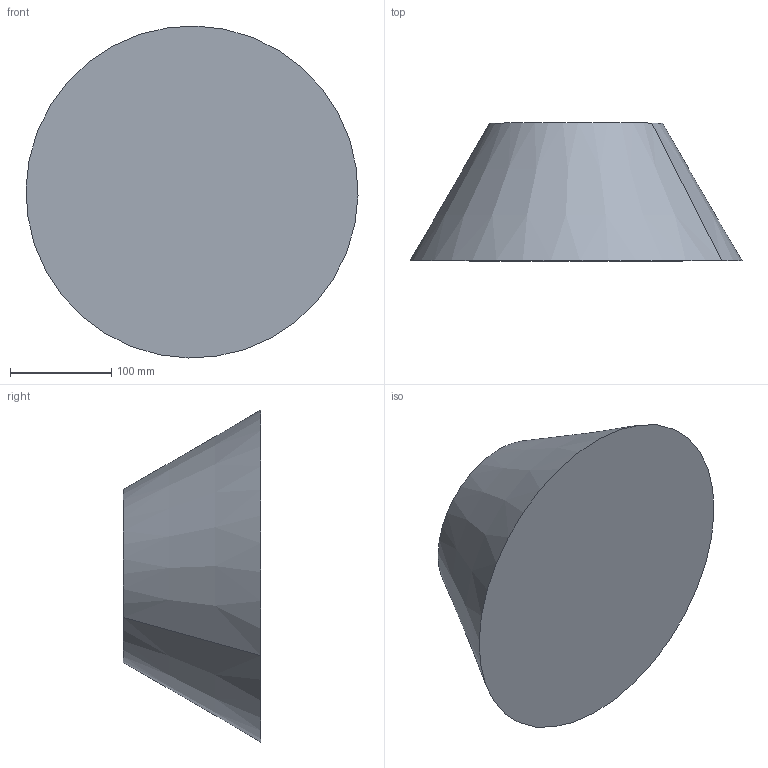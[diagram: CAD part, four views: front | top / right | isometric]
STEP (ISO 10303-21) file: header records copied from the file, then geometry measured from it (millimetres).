
FILE_DESCRIPTION(('CATIA V5 STEP Exchange'),'2;1');
FILE_NAME('C:\_Andres\UNIVERSIDAD\IQS\ASIGNATURAS\DAO\EXF\EXF-16172c\2inicio\Villarroya_Marquina_Ej09_v36.stp','2017-03-05T22:13:16+00:00',('none'),('none'),'CATIA Version 5-6 Release 2014 SP1 HF18','CATIA V5 STEP AP203','none');
FILE_SCHEMA(('CONFIG_CONTROL_DESIGN'));
Length unit declared in the file: millimetre
Products named in the file (1): Villarroya_Marquina_Ej09_v36
Bounding box: 327.91 x 136 x 327.91 mm (x, y, z)
Volume: 6859821.9 mm3; surface area: 232732.7 mm2
Topology: 1 solids, 2 shells, 8 faces, 12 edges, 8 vertices
Faces by surface type: plane 4, cone 2, cylinder 2
Entity records: 205 total; most frequent: CARTESIAN_POINT 27, DIRECTION 24, ORIENTED_EDGE 24, AXIS2_PLACEMENT_3D 15, EDGE_CURVE 12, ADVANCED_FACE 8, CIRCLE 8, EDGE_LOOP 8
